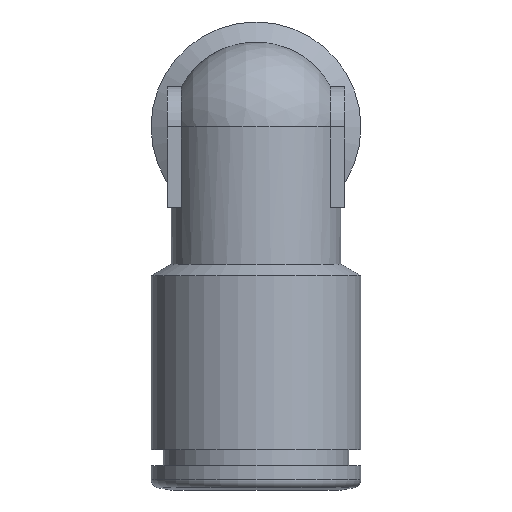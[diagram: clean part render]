
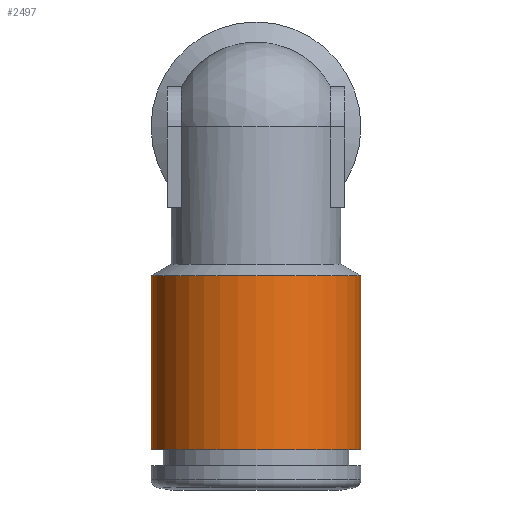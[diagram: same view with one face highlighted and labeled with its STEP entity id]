
A CAD part, left-side view. The second image highlights one B-rep face of the part: STEP entity #2497.
In plain terms, the highlighted cylindrical face has radius 6.5 mm (diameter 13 mm), a full revolution.
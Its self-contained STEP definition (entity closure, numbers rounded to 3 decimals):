
#1167=CYLINDRICAL_SURFACE('',#2347,6.5);
#1189=ORIENTED_EDGE('',*,*,#1503,.F.);
#1190=ORIENTED_EDGE('',*,*,#1501,.T.);
#1369=CIRCLE('',#2345,6.5);
#1371=CIRCLE('',#2348,6.5);
#1425=VERTEX_POINT('',#2107);
#1427=VERTEX_POINT('',#2112);
#1501=EDGE_CURVE('',#1425,#1425,#1369,.T.);
#1503=EDGE_CURVE('',#1427,#1427,#1371,.T.);
#1594=EDGE_LOOP('',(#1189));
#1595=EDGE_LOOP('',(#1190));
#1705=FACE_BOUND('',#1594,.T.);
#1706=FACE_BOUND('',#1595,.T.);
#1818=DIRECTION('',(0.,1.,0.));
#1819=DIRECTION('',(-6.5,0.,0.));
#1822=DIRECTION('',(0.,-1.,0.));
#1823=DIRECTION('',(-1.,0.,0.));
#1824=DIRECTION('',(0.,1.,0.));
#1825=DIRECTION('',(-6.5,0.,0.));
#2107=CARTESIAN_POINT('',(-6.5,0.,0.));
#2108=CARTESIAN_POINT('',(0.,0.,0.));
#2111=CARTESIAN_POINT('',(0.,10.778,0.));
#2112=CARTESIAN_POINT('',(-6.5,10.778,0.));
#2113=CARTESIAN_POINT('',(0.,10.778,0.));
#2345=AXIS2_PLACEMENT_3D('',#2108,#1818,#1819);
#2347=AXIS2_PLACEMENT_3D('',#2111,#1822,#1823);
#2348=AXIS2_PLACEMENT_3D('',#2113,#1824,#1825);
#2497=ADVANCED_FACE('',(#1705,#1706),#1167,.T.);
